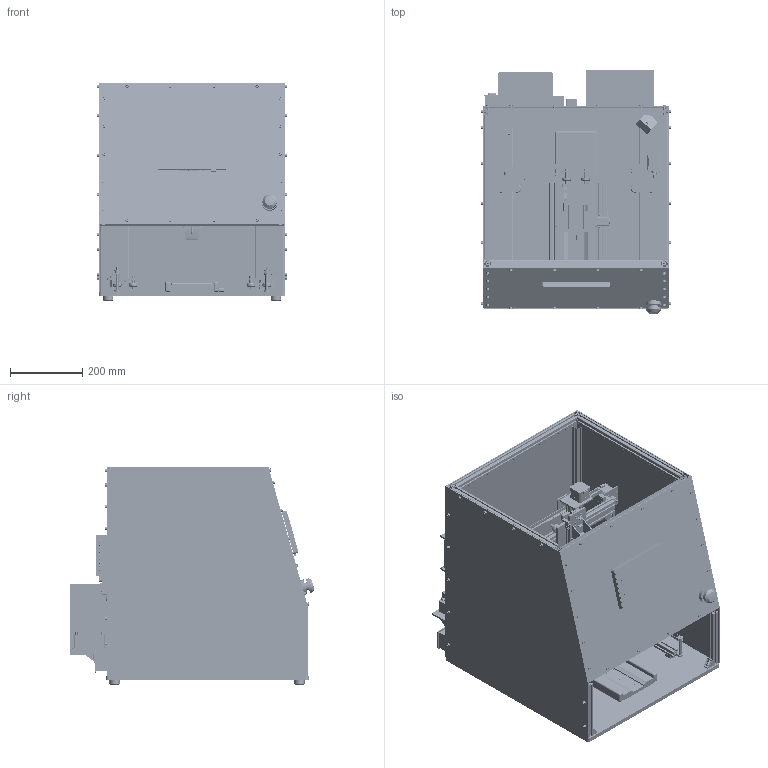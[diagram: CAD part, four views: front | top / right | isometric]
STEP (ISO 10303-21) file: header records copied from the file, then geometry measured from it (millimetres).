
FILE_DESCRIPTION(('Open CASCADE Model'),'2;1');
FILE_NAME('Open CASCADE Shape Model','2026-11-24T00:58:04',('Author'),( 'Open CASCADE'),'Open CASCADE STEP processor 7.9','Open CASCADE 7.9' ,'Unknown');
FILE_SCHEMA(('AUTOMOTIVE_DESIGN { 1 0 10303 214 1 1 1 1 }'));
Length unit declared in the file: millimetre
Products named in the file (366): UltraVena_rig_vscan; electronics_bay; psu_24V_350W; psu_24V_350W__case; psu_24V_350W__internals; psu_24V_350W__terminal_block; psu_24V_350W__terminal_screws; fuse_block; fuse_block__base; fuse_block__blade_fuses; fuse_block__studs; converter_12V_D36V50F12; converter_12V_D36V50F12__board; converter_12V_D36V50F12__inductor; converter_12V_D36V50F12__capacitors; converter_12V_D36V50F12__regulator_ic; converter_12V_standoff; converter_12V_standoff_2; converter_12V_standoff_3; converter_12V_standoff_4; converter_12V_servo_D24V150F12; converter_12V_servo_D24V150F12__board; converter_12V_servo_D24V150F12__inductor; converter_12V_servo_D24V150F12__screw_terminals; converter_12V_servo_D24V150F12__capacitors; converter_12V_servo_standoff; converter_12V_servo_standoff_2; converter_12V_servo_standoff_3; converter_12V_servo_standoff_4; converter_6V_D36V28F6; converter_6V_D36V28F6__board; converter_6V_D36V28F6__inductor; converter_6V_D36V28F6__regulator_ic; converter_6V_spacer; converter_5V_D36V50F5; converter_5V_standoff; converter_5V_standoff_2; converter_5V_standoff_3; converter_5V_standoff_4; usb_hub_powered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
Assembly tree (541 placements, depth 10):
  UltraVena_rig_vscan
    electronics_bay
      psu_24V_350W
        psu_24V_350W__case
        psu_24V_350W__internals
        psu_24V_350W__terminal_block
        psu_24V_350W__terminal_screws
      fuse_block
        fuse_block__base
        fuse_block__blade_fuses
        fuse_block__studs
      converter_12V_D36V50F12
        converter_12V_D36V50F12__board
        converter_12V_D36V50F12__inductor
        converter_12V_D36V50F12__capacitors
        converter_12V_D36V50F12__regulator_ic
      converter_12V_standoff
      converter_12V_standoff_2
      converter_12V_standoff_3
      converter_12V_standoff_4
      converter_12V_servo_D24V150F12
        converter_12V_servo_D24V150F12__board
        converter_12V_servo_D24V150F12__inductor
        converter_12V_servo_D24V150F12__screw_terminals
        converter_12V_servo_D24V150F12__capacitors
      converter_12V_servo_standoff
      converter_12V_servo_standoff_2
      converter_12V_servo_standoff_3
      converter_12V_servo_standoff_4
      converter_6V_D36V28F6
        converter_6V_D36V28F6__board
        converter_6V_D36V28F6__inductor
        converter_6V_D36V28F6__regulator_ic
      converter_6V_spacer
      converter_5V_D36V50F5
        converter_12V_D36V50F12__board
        converter_12V_D36V50F12__inductor
        converter_12V_D36V50F12__capacitors
        converter_12V_D36V50F12__regulator_ic
      converter_5V_standoff
      converter_5V_standoff_2
      converter_5V_standoff_3
      converter_5V_standoff_4
      usb_hub_powered
        usb_hub_powered__case
        usb_hub_powered__ports
        usb_hub_powered__dc_jack
      teensy_4_0
        teensy_4_0__board
        teensy_4_0__mcu
        teensy_4_0__usb_micro
        teensy_4_0__pin_headers
      teensy_carrier
      servo_bus_adapter
        servo_bus_adapter__board
        servo_bus_adapter__usb_c
        servo_bus_adapter__power_terminal
        servo_bus_adapter__servo_sockets
        servo_bus_adapter__uart_chip
      servo_bus_adapter_standoff
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Bounding box: 526 x 676.93 x 604 mm (x, y, z)
Volume: 13062592.7 mm3; surface area: 5658922.8 mm2
Topology: 518 solids, 518 shells, 5794 faces, 12751 edges, 8288 vertices
Faces by surface type: plane 4250, cylinder 1463, sphere 42, cone 31, bspline 8
Full cylindrical faces by diameter (mm): 2.2 x68, 2.4 x16, 2.5 x16, 2.6 x32, 2.8 x16, 3 x78, 3.2 x20, 3.4 x52, 3.5 x10, 4 x6, 4.2 x40, 4.4 x16, 4.8 x8, 5 x104, 5.1 x38, 5.2 x120, 5.4 x110, 6 x45, 6.2 x10, 6.4 x2, 6.8 x2, 8 x52, 8.4 x8, 8.5 x90, 10 x40, 10.2 x2, 10.4 x1, 12 x12, 12.1 x4, 12.2 x12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
Entity records: 232922 total; most frequent: CARTESIAN_POINT 41658, DIRECTION 35523, LINE 22223, VECTOR 22223, ORIENTED_EDGE 17358, PCURVE 17358, DEFINITIONAL_REPRESENTATION 17358, EDGE_CURVE 8679
